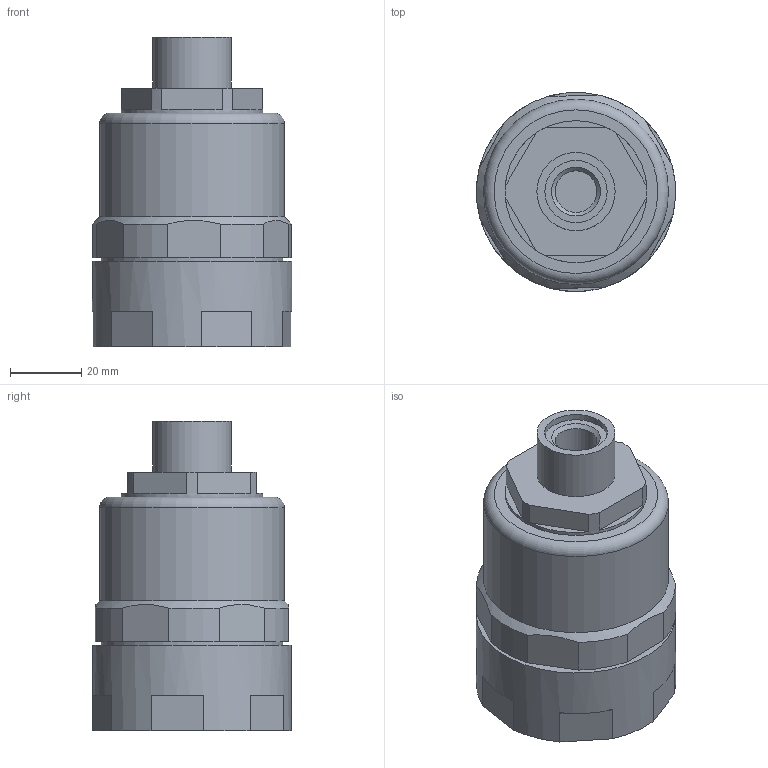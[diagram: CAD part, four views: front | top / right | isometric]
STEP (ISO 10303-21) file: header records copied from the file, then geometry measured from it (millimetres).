
FILE_DESCRIPTION(('STEP AP203'),'1');
FILE_NAME('SGC-030-ZZ-T.stp','2020-01-30T05:55:39',(' '),(' '),'Spatial InterOp 3D',' ',' ');
FILE_SCHEMA(('CONFIG_CONTROL_DESIGN'));
Length unit declared in the file: millimetre
Products named in the file (1): 1
Bounding box: 55.99 x 55.91 x 87 mm (x, y, z)
Volume: 92536.3 mm3; surface area: 25084.7 mm2
Topology: 1 solids, 1 shells, 67 faces, 163 edges, 107 vertices
Faces by surface type: plane 47, cylinder 15, cone 4, torus 1
Full cylindrical faces by diameter (mm): 11.7 x1, 17.5 x1, 22 x1, 30 x1, 39.895 x1, 42.5 x1, 51 x1, 52 x1, 56 x1
Entity records: 1962 total; most frequent: CARTESIAN_POINT 372, DIRECTION 332, ORIENTED_EDGE 292, EDGE_CURVE 146, AXIS2_PLACEMENT_3D 124, VERTEX_POINT 104, EDGE_LOOP 90, LINE 84
